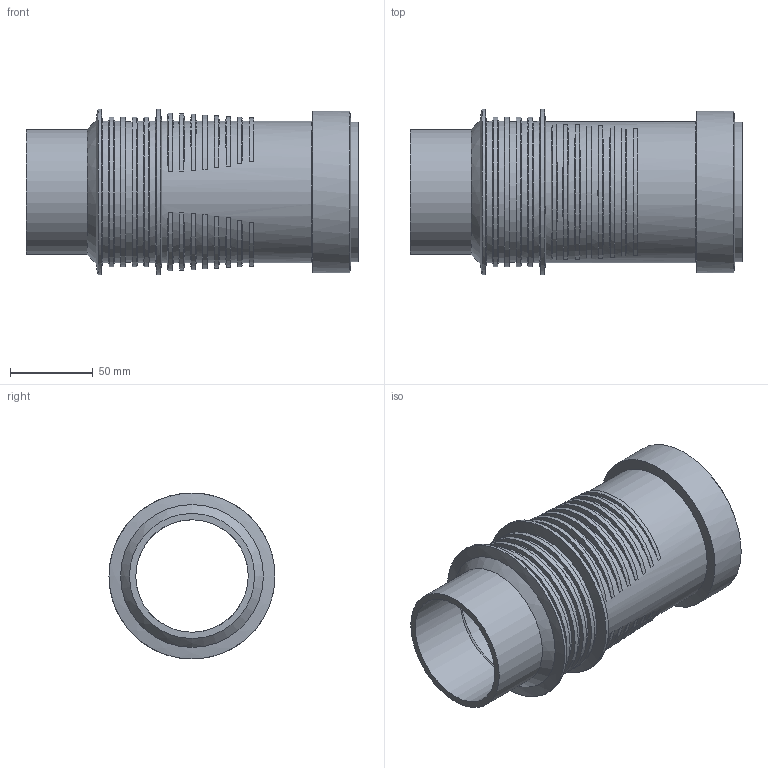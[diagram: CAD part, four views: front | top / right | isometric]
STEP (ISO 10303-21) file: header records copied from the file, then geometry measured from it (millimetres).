
FILE_DESCRIPTION(/* description */ (''),/* implementation_level */ '2;1');
FILE_NAME(/* name */ 'H:\Geberit-Teile\Export\Fertig zum Export\Langmuffen m. Doppelbund\stp\307012.stp',/* time_stamp */ '2017-07-17T11:57:01+02:00',/* author */ ('seihe2'),/* organization */ (''),/* preprocessor_version */ 'ST-DEVELOPER v15.2',/* originating_system */ 'Autodesk Inventor 2014',/* authorisation */ '');
FILE_SCHEMA (('AUTOMOTIVE_DESIGN { 1 0 10303 214 3 1 1 }'));
Length unit declared in the file: millimetre
Products named in the file (1): 307012
Bounding box: 200 x 100 x 100 mm (x, y, z)
Volume: 232191.7 mm3; surface area: 131161.5 mm2
Topology: 1 solids, 1 shells, 101 faces, 314 edges, 223 vertices
Faces by surface type: cone 53, cylinder 36, bspline 8, plane 3, torus 1
Full cylindrical faces by diameter (mm): 8 x1, 67.75 x1, 75.35 x1, 77.55 x1, 77.93 x1, 84.23 x1, 85.15 x5, 90.35 x4, 91.2 x1, 97.5 x1, 100 x2
Entity records: 4484 total; most frequent: CARTESIAN_POINT 2048, ORIENTED_EDGE 494, DIRECTION 402, EDGE_CURVE 247, VERTEX_POINT 194, AXIS2_PLACEMENT_3D 180, EDGE_LOOP 149, B_SPLINE_CURVE_WITH_KNOTS 114
